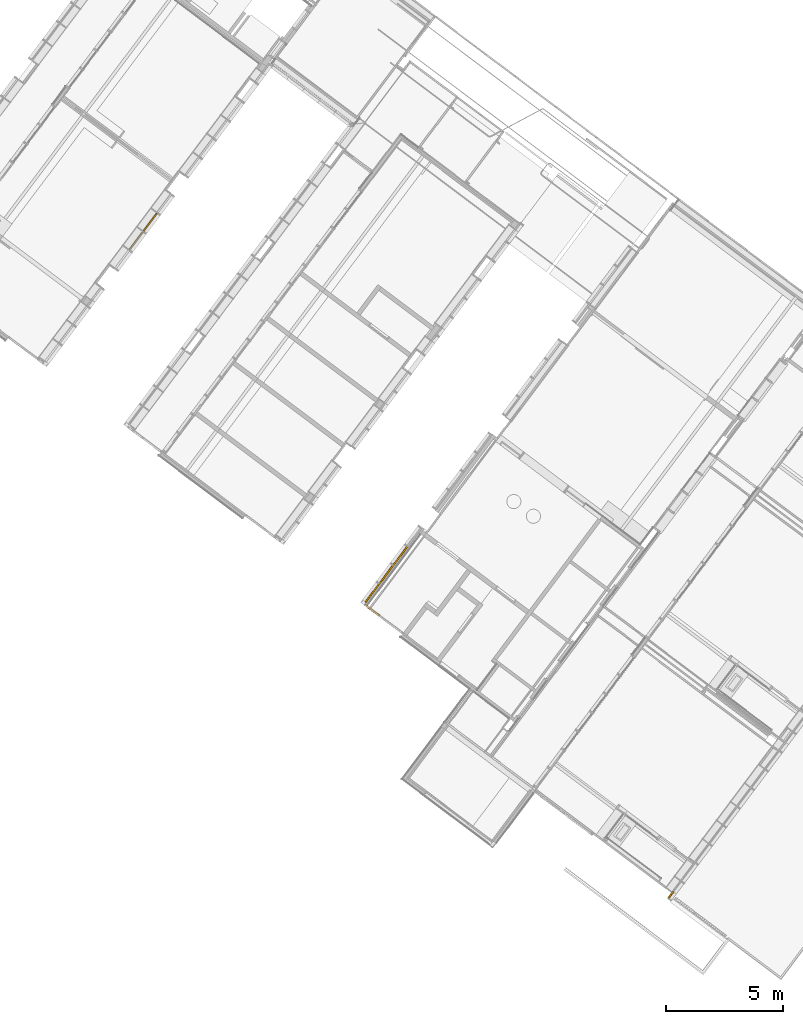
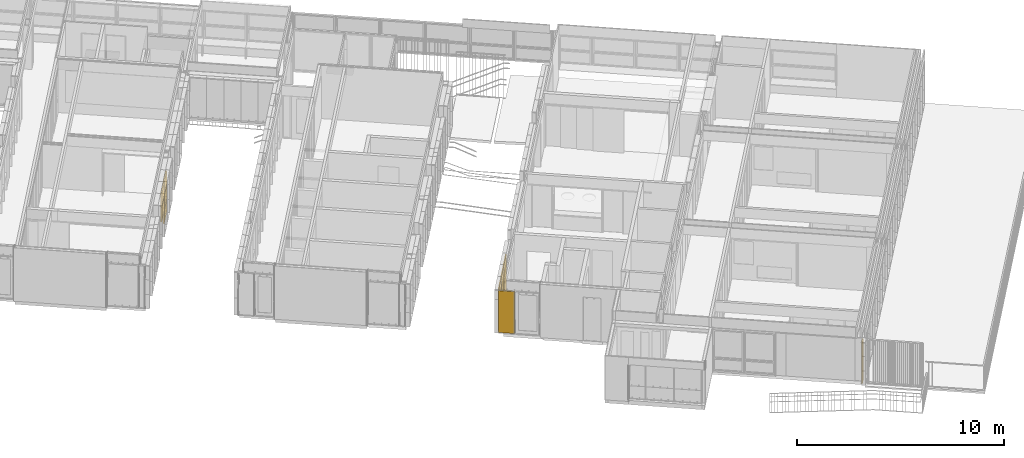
# One storey, part 147 of 243: 5 doors, 5 windows, 4 elements without a shape of their own.
"""IFC2X3 building model written with IfcOpenShell, lengths in metres."""

from ifc_helpers import new_model, entity, si_unit, converted_unit, derived_unit, direction, frame, origin, origin_2d_with_axis, place, context, subcontext, project, spatial, rectangle, extrude, faceted_brep, source, transform, mapped, material, material_list, type_object, type_shapes, element, aggregate, save


model = new_model("IFC2X3")

# Units and contexts
model_context = context("Model", 3, precision=1e-05, world=origin(), true_north=direction((6.123031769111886e-17, 1.0)))
body_context = subcontext(model_context, "Body", "Model", "MODEL_VIEW")
ifc_project = project(units=[si_unit("LENGTHUNIT", "METRE"), si_unit("AREAUNIT", "SQUARE_METRE"), si_unit("VOLUMEUNIT", "CUBIC_METRE"), converted_unit("PLANEANGLEUNIT", "DEGREE", entity("IfcRatioMeasure", 0.017453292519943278), si_unit("PLANEANGLEUNIT", "RADIAN"), dimensions=[0, 0, 0, 0, 0, 0, 0]), si_unit("MASSUNIT", "GRAM", prefix="KILO"), derived_unit("MASSDENSITYUNIT", [(si_unit("MASSUNIT", "GRAM", prefix="KILO"), 1), (si_unit("LENGTHUNIT", "METRE"), -3)]), derived_unit("IONCONCENTRATIONUNIT", [(si_unit("MASSUNIT", "GRAM", prefix="KILO"), 1), (si_unit("LENGTHUNIT", "METRE"), -3)]), derived_unit("MOMENTOFINERTIAUNIT", [(si_unit("LENGTHUNIT", "METRE"), 4)]), si_unit("TIMEUNIT", "SECOND"), si_unit("FREQUENCYUNIT", "HERTZ"), si_unit("THERMODYNAMICTEMPERATUREUNIT", "DEGREE_CELSIUS"), derived_unit("THERMALTRANSMITTANCEUNIT", [(si_unit("MASSUNIT", "GRAM", prefix="KILO"), 1), (si_unit("THERMODYNAMICTEMPERATUREUNIT", "KELVIN"), -1), (si_unit("TIMEUNIT", "SECOND"), -3)]), derived_unit("THERMALCONDUCTANCEUNIT", [(si_unit("MASSUNIT", "GRAM", prefix="KILO"), 1), (si_unit("THERMODYNAMICTEMPERATUREUNIT", "KELVIN"), -1), (si_unit("TIMEUNIT", "SECOND"), -3), (si_unit("LENGTHUNIT", "METRE"), 1)]), derived_unit("VOLUMETRICFLOWRATEUNIT", [(si_unit("LENGTHUNIT", "METRE"), 3), (si_unit("TIMEUNIT", "SECOND"), -1)]), derived_unit("MASSFLOWRATEUNIT", [(si_unit("MASSUNIT", "GRAM", prefix="KILO"), 1), (si_unit("TIMEUNIT", "SECOND"), -1)]), derived_unit("ROTATIONALFREQUENCYUNIT", [(si_unit("TIMEUNIT", "SECOND"), -1)]), si_unit("ELECTRICCURRENTUNIT", "AMPERE"), si_unit("ELECTRICVOLTAGEUNIT", "VOLT"), si_unit("POWERUNIT", "WATT"), si_unit("FORCEUNIT", "NEWTON", prefix="KILO"), si_unit("ILLUMINANCEUNIT", "LUX"), si_unit("LUMINOUSFLUXUNIT", "LUMEN"), si_unit("LUMINOUSINTENSITYUNIT", "CANDELA"), derived_unit("USERDEFINED", [(si_unit("MASSUNIT", "GRAM", prefix="KILO"), -1), (si_unit("LENGTHUNIT", "METRE"), -2), (si_unit("TIMEUNIT", "SECOND"), 3), (si_unit("LUMINOUSFLUXUNIT", "LUMEN"), 1)]), derived_unit("USERDEFINED", [(si_unit("MASSUNIT", "GRAM", prefix="KILO"), 1), (si_unit("TIMEUNIT", "SECOND"), -3), (si_unit("LENGTHUNIT", "METRE"), 3), (si_unit("ELECTRICCURRENTUNIT", "AMPERE"), -2)]), derived_unit("SOUNDPOWERUNIT", [(si_unit("MASSUNIT", "GRAM", prefix="KILO"), 1), (si_unit("TIMEUNIT", "SECOND"), -3), (si_unit("LENGTHUNIT", "METRE"), 2)]), derived_unit("SOUNDPRESSUREUNIT", [(si_unit("MASSUNIT", "GRAM", prefix="KILO"), 1), (si_unit("LENGTHUNIT", "METRE"), -1), (si_unit("TIMEUNIT", "SECOND"), -2)]), derived_unit("LINEARVELOCITYUNIT", [(si_unit("LENGTHUNIT", "METRE"), 1), (si_unit("TIMEUNIT", "SECOND"), -1)]), si_unit("PRESSUREUNIT", "PASCAL"), derived_unit("USERDEFINED", [(si_unit("MASSUNIT", "GRAM", prefix="KILO"), 1), (si_unit("LENGTHUNIT", "METRE"), -2), (si_unit("TIMEUNIT", "SECOND"), -2)]), derived_unit("LINEARFORCEUNIT", [(si_unit("MASSUNIT", "GRAM", prefix="KILO"), 1), (si_unit("TIMEUNIT", "SECOND"), -2)]), derived_unit("PLANARFORCEUNIT", [(si_unit("MASSUNIT", "GRAM", prefix="KILO"), 1), (si_unit("LENGTHUNIT", "METRE"), -1), (si_unit("TIMEUNIT", "SECOND"), -2)]), derived_unit("SPECIFICHEATCAPACITYUNIT", [(si_unit("THERMODYNAMICTEMPERATUREUNIT", "KELVIN"), -1), (si_unit("LENGTHUNIT", "METRE"), 2), (si_unit("TIMEUNIT", "SECOND"), -2)]), derived_unit("HEATINGVALUEUNIT", [(si_unit("LENGTHUNIT", "METRE"), 2), (si_unit("TIMEUNIT", "SECOND"), -2)]), derived_unit("VAPORPERMEABILITYUNIT", [(si_unit("LENGTHUNIT", "METRE"), -1), (si_unit("TIMEUNIT", "SECOND"), 1)]), derived_unit("DYNAMICVISCOSITYUNIT", [(si_unit("MASSUNIT", "GRAM", prefix="KILO"), 1), (si_unit("TIMEUNIT", "SECOND"), -1), (si_unit("LENGTHUNIT", "METRE"), -1)]), derived_unit("THERMALEXPANSIONCOEFFICIENTUNIT", [(si_unit("THERMODYNAMICTEMPERATUREUNIT", "KELVIN"), -1)]), derived_unit("MODULUSOFELASTICITYUNIT", [(si_unit("MASSUNIT", "GRAM", prefix="KILO"), 1), (si_unit("LENGTHUNIT", "METRE"), -1), (si_unit("TIMEUNIT", "SECOND"), -2)]), derived_unit("ISOTHERMALMOISTURECAPACITYUNIT", [(si_unit("LENGTHUNIT", "METRE"), 3), (si_unit("MASSUNIT", "GRAM", prefix="KILO"), -1)]), derived_unit("MOISTUREDIFFUSIVITYUNIT", [(si_unit("TIMEUNIT", "SECOND"), -1), (si_unit("LENGTHUNIT", "METRE"), 2)])], contexts=[model_context])

# Site, building, storey
site_placement = place(None, frame((0.0, 0.0, 235.0), z_axis=(0.0, 0.0, 1.0), x_axis=(-0.7996477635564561, 0.6004693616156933, 0.0)))
site = spatial("IfcSite", under=ifc_project, at=site_placement, Name="Default", CompositionType="ELEMENT")
building_placement = place(site_placement, origin())
building = spatial("IfcBuilding", under=site, at=building_placement, CompositionType="ELEMENT")
storey_placement = place(building_placement, origin())
storey = spatial("IfcBuildingStorey", under=building, at=storey_placement, Name="P0- Escola", CompositionType="ELEMENT", Elevation=0.0)

# Curtain wall, door
curtain_wall_type_1 = type_object("IfcCurtainWallType", Name="Muro cortina:MC- EXT- MC2", PredefinedType="NOTDEFINED")
curtain_wall_1_placement = place(storey_placement, origin())
curtain_wall_1 = element("IfcCurtainWall", 1, at=curtain_wall_1_placement, inside=storey, type_object=curtain_wall_type_1, Name="Muro cortina:MC- EXT- MC2", ObjectType="Muro cortina:MC- EXT- MC2")
ifc_material_1 = material(Name="_Alumini- T1- Perfil")
ifc_material_2 = material(Name="_Aillament")
ifc_material_list_1 = material_list([ifc_material_1, ifc_material_2])
door_style_1 = type_object("IfcDoorStyle", Name="MC- Alu- panell especific xapa:MC- Alu- panell especific xapa", ConstructionType="NOTDEFINED", OperationType="NOTDEFINED", ParameterTakesPrecedence=False, Sizeable=False, material=ifc_material_list_1)
shared_shape_1 = source(origin(), body_context, "Body", "SweptSolid", [
    extrude(rectangle(XDim=0.005999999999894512, YDim=0.3454172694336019, at=origin_2d_with_axis()), frame((0.0, -0.057000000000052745, 0.0), z_axis=(0.0, 0.0, 1.0), x_axis=(0.0, -1.0, 0.0)), (0.0, 0.0, 1.0), 2.4514499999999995),
    extrude(rectangle(XDim=0.3454172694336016, YDim=0.048000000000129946, at=origin_2d_with_axis()), frame((0.0, -0.030000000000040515, 0.0)), (0.0, 0.0, 1.0), 2.4514499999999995),
    extrude(rectangle(XDim=0.005999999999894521, YDim=0.3454172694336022, at=origin_2d_with_axis()), frame((0.0, -0.003000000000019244, 0.0), z_axis=(0.0, 0.0, 1.0), x_axis=(0.0, -1.0, 0.0)), (0.0, 0.0, 1.0), 2.4514499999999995),
])
type_shapes(door_style_1, [shared_shape_1])
door_1_placement = place(curtain_wall_1_placement, frame((5.885147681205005, -18.254148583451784, 0.03230000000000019), z_axis=(0.0, 0.0, 1.0), x_axis=(0.0, 1.0, 0.0)))
door_1 = element("IfcDoor", 2, at=door_1_placement, type_object=door_style_1, material=ifc_material_list_1, Name="MC- Alu- panell especific xapa:MC- Alu- panell especific xapa", ObjectType="MC- Alu- panell especific xapa:MC- Alu- panell especific xapa", OverallHeight=2.4514499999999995, OverallWidth=0.34541726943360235, context=body_context, shape_type="MappedRepresentation", body=[
    mapped(shared_shape_1, transform((0.0, 0.0, 0.0), scale=1.0)),
])
aggregate(curtain_wall_1, [door_1])

# Curtain wall, windows
curtain_wall_2_placement = place(storey_placement, origin())
curtain_wall_2 = element("IfcCurtainWall", 3, at=curtain_wall_2_placement, inside=storey, type_object=curtain_wall_type_1, Name="Muro cortina:MC- EXT- MC2", ObjectType="Muro cortina:MC- EXT- MC2")
ifc_material_3 = material(Name="_Vidre")
ifc_material_list_2 = material_list([ifc_material_3, ifc_material_1])
window_style_1 = type_object("IfcWindowStyle", Name="MC- Alu- Conjunt vidre fix- 62x60 cm:MC- Alu- Conjunt vidre fix- 62x60 cm", ConstructionType="NOTDEFINED", OperationType="NOTDEFINED", ParameterTakesPrecedence=False, Sizeable=False, material=ifc_material_list_2)
shared_shape_2 = source(origin(), body_context, "Body", "Brep", [
    faceted_brep([(0.4361932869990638, -0.007600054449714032, 0.048806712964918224), (0.4361932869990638, -0.03160022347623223, 0.048806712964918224), (-0.4361932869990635, -0.03160022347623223, 0.048806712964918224), (-0.4361932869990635, -0.007600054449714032, 0.048806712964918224), (0.4361932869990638, -0.007600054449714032, 0.7387000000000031), (-0.4361932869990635, -0.007600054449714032, 0.7387000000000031), (-0.4361932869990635, -0.03160022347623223, 0.7387000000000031), (0.4361932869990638, -0.03160022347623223, 0.7387000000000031)], [[[0, 1, 2, 3]], [[4, 0, 3, 5]], [[5, 3, 2, 6]], [[6, 2, 1, 7]], [[7, 1, 0, 4]], [[4, 5, 6, 7]]]),
    faceted_brep([(0.48499999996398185, -0.05999999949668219, 0.7877000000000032), (0.48499999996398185, -0.05999999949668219, 0.0), (0.48499999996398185, 0.0, 0.0), (0.48499999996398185, 0.0, 0.787700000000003), (-0.48499999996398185, 0.0, 0.7877000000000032), (-0.48499999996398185, 0.0, 0.0), (0.4221931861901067, 0.0, 0.7248931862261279), (-0.42219318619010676, 0.0, 0.724893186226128), (-0.4221931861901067, 0.0, 0.0628068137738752), (0.4221931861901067, 0.0, 0.06280681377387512), (-0.48499999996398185, -0.05999999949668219, 0.0), (-0.48499999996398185, -0.05999999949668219, 0.7877000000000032), (-0.42219603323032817, -0.05999999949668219, 0.7248960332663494), (0.42219603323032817, -0.05999999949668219, 0.7248960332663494), (0.42219603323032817, -0.05999999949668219, 0.0628039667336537), (-0.42219603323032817, -0.05999999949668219, 0.0628039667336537), (0.4221960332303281, -0.03160022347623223, 0.7248960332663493), (0.42219603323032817, -0.03160022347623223, 0.0628039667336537), (-0.42219603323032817, -0.03160022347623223, 0.06280396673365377), (-0.42219603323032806, -0.03160022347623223, 0.7248960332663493), (-0.43619328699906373, -0.03160022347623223, 0.738893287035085), (0.43619328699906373, -0.03160022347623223, 0.738893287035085), (0.43619328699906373, -0.03160022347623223, 0.048806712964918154), (-0.43619328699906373, -0.03160022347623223, 0.04880671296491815), (0.43619328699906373, -0.007600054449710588, 0.738893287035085), (0.43619328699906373, -0.007600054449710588, 0.04880671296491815), (-0.43619328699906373, -0.007600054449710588, 0.048806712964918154), (-0.43619328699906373, -0.007600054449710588, 0.738893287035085), (-0.42219318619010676, -0.007600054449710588, 0.724893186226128), (0.42219318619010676, -0.007600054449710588, 0.724893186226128), (0.42219318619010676, -0.007600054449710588, 0.06280681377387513), (-0.42219318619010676, -0.007600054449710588, 0.06280681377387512)], [[[0, 1, 2, 3]], [[4, 3, 2, 5], [6, 7, 8, 9]], [[1, 10, 5, 2]], [[0, 11, 10, 1], [12, 13, 14, 15]], [[16, 17, 14, 13]], [[17, 18, 15, 14]], [[16, 19, 18, 17], [20, 21, 22, 23]], [[24, 25, 22, 21]], [[25, 26, 23, 22]], [[24, 27, 26, 25], [28, 29, 30, 31]], [[6, 9, 30, 29]], [[9, 8, 31, 30]], [[10, 11, 4, 5]], [[18, 19, 12, 15]], [[26, 27, 20, 23]], [[8, 7, 28, 31]], [[11, 0, 3, 4]], [[19, 16, 13, 12]], [[27, 24, 21, 20]], [[7, 6, 29, 28]]], outer=[[True], [True, False], [True], [True, False], [True], [True], [False, True], [True], [True], [True, False], [True], [True], [True], [True], [True], [True], [True], [True], [True], [True]]),
])
type_shapes(window_style_1, [shared_shape_2])
window_1_placement = place(curtain_wall_2_placement, frame((41.045147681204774, -27.91519175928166, 0.03229999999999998), z_axis=(0.0, 0.0, 1.0), x_axis=(0.0, 1.0, 0.0)))
window_1 = element("IfcWindow", 4, at=window_1_placement, type_object=window_style_1, material=ifc_material_list_2, Name="MC- Alu- Conjunt vidre fix- 62x60 cm:MC- Alu- Conjunt vidre fix- 62x60 cm", ObjectType="MC- Alu- Conjunt vidre fix- 62x60 cm:MC- Alu- Conjunt vidre fix- 62x60 cm", OverallHeight=0.7877000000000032, OverallWidth=0.9699999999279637, context=body_context, shape_type="MappedRepresentation", body=[
    mapped(shared_shape_2, transform((0.0, 0.0, 0.0), scale=1.0)),
])
window_style_2 = type_object("IfcWindowStyle", Name="MC- Alu- Conjunt finestra basculant- 68x68 cm:MC- Alu- Conjunt finestra basculant- 68x68 cm", ConstructionType="NOTDEFINED", OperationType="NOTDEFINED", ParameterTakesPrecedence=False, Sizeable=False, material=ifc_material_list_2)
shared_shape_3 = source(origin(), body_context, "Body", "Brep", [
    faceted_brep([(0.43291170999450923, -0.03559830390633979, 0.051999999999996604), (-0.43291170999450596, -0.03559830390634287, 0.051999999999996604), (-0.43291170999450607, -0.011598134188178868, 0.051999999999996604), (0.43291170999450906, -0.011598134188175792, 0.051999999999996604), (0.43291170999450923, -0.035598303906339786, 0.8228027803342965), (0.43291170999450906, -0.011598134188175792, 0.8228027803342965), (-0.43291170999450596, -0.011598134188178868, 0.8228027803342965), (-0.43291170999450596, -0.03559830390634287, 0.8228027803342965)], [[[0, 1, 2, 3]], [[4, 0, 3, 5]], [[5, 3, 2, 6]], [[6, 2, 1, 7]], [[7, 1, 0, 4]], [[4, 5, 6, 7]]]),
    faceted_brep([(-0.4172108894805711, -0.009998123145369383, 0.8071019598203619), (-0.4172108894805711, -0.00999812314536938, 0.06789804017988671), (-0.4172108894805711, -0.007998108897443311, 0.06789804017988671), (-0.4172108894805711, -0.007998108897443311, 0.8071019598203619), (-0.44610892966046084, -0.007998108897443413, 0.8360000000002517), (0.44610892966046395, -0.007998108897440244, 0.8360000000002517), (0.44610892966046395, -0.007998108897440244, 0.03899999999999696), (-0.44610892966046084, -0.007998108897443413, 0.03899999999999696), (0.4172108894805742, -0.007998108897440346, 0.8071019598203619), (0.4172108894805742, -0.007998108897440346, 0.06789804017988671), (0.4172108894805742, -0.009998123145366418, 0.06789804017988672), (0.4172108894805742, -0.009998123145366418, 0.8071019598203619), (0.4329117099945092, -0.00999812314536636, 0.8228027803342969), (-0.43291170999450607, -0.009998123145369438, 0.8228027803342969), (-0.43291170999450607, -0.009998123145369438, 0.05219721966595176), (0.4329117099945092, -0.00999812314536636, 0.052197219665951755), (-0.4329117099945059, -0.04079986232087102, 0.8228027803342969), (-0.4329117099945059, -0.04079986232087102, 0.052197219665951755), (0.4329117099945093, -0.04079986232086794, 0.05219721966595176), (0.4329117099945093, -0.04079986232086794, 0.8228027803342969), (0.41721088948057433, -0.040799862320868, 0.8071019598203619), (-0.41721088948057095, -0.04079986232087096, 0.8071019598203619), (-0.41721088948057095, -0.04079986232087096, 0.06789804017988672), (0.41721088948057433, -0.040799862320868, 0.06789804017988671), (-0.4172108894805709, -0.06800005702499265, 0.8071019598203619), (-0.4172108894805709, -0.06800005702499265, 0.06789804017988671), (0.4172108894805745, -0.0680000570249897, 0.06789804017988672), (0.4172108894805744, -0.0680000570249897, 0.8071019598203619), (0.4636128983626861, -0.06800005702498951, 0.8535039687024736), (-0.4636128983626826, -0.06800005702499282, 0.8535039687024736), (-0.4636128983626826, -0.06800005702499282, 0.021496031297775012), (0.4636128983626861, -0.06800005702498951, 0.021496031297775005), (-0.4636128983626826, -0.0645000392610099, 0.8535039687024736), (-0.4636128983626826, -0.06450003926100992, 0.021496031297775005), (0.4636128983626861, -0.06450003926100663, 0.021496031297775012), (0.4636128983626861, -0.06450003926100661, 0.8535039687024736), (0.44610892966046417, -0.06450003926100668, 0.8360000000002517), (-0.4461089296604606, -0.06450003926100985, 0.8360000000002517), (-0.4461089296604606, -0.06450003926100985, 0.03899999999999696), (0.44610892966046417, -0.06450003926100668, 0.038999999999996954)], [[[0, 1, 2, 3]], [[4, 5, 6, 7], [8, 3, 2, 9]], [[1, 10, 9, 2]], [[0, 11, 10, 1], [12, 13, 14, 15]], [[16, 17, 14, 13]], [[17, 18, 15, 14]], [[16, 19, 18, 17], [20, 21, 22, 23]], [[24, 25, 22, 21]], [[25, 26, 23, 22]], [[24, 27, 26, 25], [28, 29, 30, 31]], [[32, 33, 30, 29]], [[33, 34, 31, 30]], [[32, 35, 34, 33], [36, 37, 38, 39]], [[4, 7, 38, 37]], [[7, 6, 39, 38]], [[10, 11, 8, 9]], [[18, 19, 12, 15]], [[26, 27, 20, 23]], [[34, 35, 28, 31]], [[6, 5, 36, 39]], [[11, 0, 3, 8]], [[19, 16, 13, 12]], [[27, 24, 21, 20]], [[35, 32, 29, 28]], [[5, 4, 37, 36]]], outer=[[True], [True, False], [True], [False, True], [True], [True], [True, False], [True], [True], [False, True], [True], [True], [True, False], [True], [True], [True], [True], [True], [True], [True], [True], [True], [True], [True], [True]]),
    faceted_brep([(0.42219318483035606, 0.0, 0.8121931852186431), (0.42219318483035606, 0.0, 0.06280681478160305), (0.42219318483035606, -0.0040000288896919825, 0.06280681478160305), (0.42219318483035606, -0.0040000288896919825, 0.8121931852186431), (-0.42219318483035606, -0.0040000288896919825, 0.8121931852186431), (-0.42219318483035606, -0.0040000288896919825, 0.06280681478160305), (0.4575998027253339, -0.0040000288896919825, 0.8475998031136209), (-0.4575998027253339, -0.0040000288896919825, 0.8475998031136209), (-0.4575998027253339, -0.0040000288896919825, 0.027400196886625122), (0.4575998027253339, -0.0040000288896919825, 0.02740019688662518), (-0.42219318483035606, 0.0, 0.06280681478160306), (-0.42219318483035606, 0.0, 0.8121931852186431), (-0.48499999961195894, 0.0, 0.875000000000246), (0.48499999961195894, 0.0, 0.875000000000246), (0.48499999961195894, 0.0, 0.0), (-0.48499999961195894, 0.0, 0.0), (0.48499999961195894, -0.05999999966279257, 0.875000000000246), (0.48499999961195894, -0.05999999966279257, 0.0), (-0.48499999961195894, -0.05999999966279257, 0.0), (-0.48499999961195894, -0.05999999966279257, 0.875000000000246), (-0.4575998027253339, -0.05999999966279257, 0.8475998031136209), (0.4575998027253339, -0.05999999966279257, 0.8475998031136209), (0.4575998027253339, -0.05999999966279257, 0.027400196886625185), (-0.4575998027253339, -0.05999999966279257, 0.02740019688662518)], [[[0, 1, 2, 3]], [[4, 3, 2, 5], [6, 7, 8, 9]], [[1, 10, 5, 2]], [[0, 11, 10, 1], [12, 13, 14, 15]], [[16, 17, 14, 13]], [[17, 18, 15, 14]], [[16, 19, 18, 17], [20, 21, 22, 23]], [[6, 9, 22, 21]], [[9, 8, 23, 22]], [[10, 11, 4, 5]], [[18, 19, 12, 15]], [[8, 7, 20, 23]], [[11, 0, 3, 4]], [[19, 16, 13, 12]], [[7, 6, 21, 20]]], outer=[[True], [False, True], [True], [False, True], [True], [True], [True, False], [True], [True], [True], [True], [True], [True], [True], [True]]),
])
type_shapes(window_style_2, [shared_shape_3])
window_2_placement = place(curtain_wall_2_placement, frame((41.045147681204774, -26.91519175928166, 0.8200000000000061), z_axis=(0.0, 0.0, 1.0), x_axis=(0.0, 1.0, 0.0)))
window_2 = element("IfcWindow", 5, at=window_2_placement, type_object=window_style_2, material=ifc_material_list_2, Name="MC- Alu- Conjunt finestra basculant- 68x68 cm:MC- Alu- Conjunt finestra basculant- 68x68 cm", ObjectType="MC- Alu- Conjunt finestra basculant- 68x68 cm:MC- Alu- Conjunt finestra basculant- 68x68 cm", OverallHeight=0.8750000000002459, OverallWidth=0.9699999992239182, context=body_context, shape_type="MappedRepresentation", body=[
    mapped(shared_shape_3, transform((0.0, 0.0, 0.0), scale=1.0)),
])
window_3_placement = place(curtain_wall_2_placement, frame((41.045147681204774, -27.91519175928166, 0.8200000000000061), z_axis=(0.0, 0.0, 1.0), x_axis=(0.0, 1.0, 0.0)))
window_3 = element("IfcWindow", 6, at=window_3_placement, type_object=window_style_2, material=ifc_material_list_2, Name="MC- Alu- Conjunt finestra basculant- 68x68 cm:MC- Alu- Conjunt finestra basculant- 68x68 cm", ObjectType="MC- Alu- Conjunt finestra basculant- 68x68 cm:MC- Alu- Conjunt finestra basculant- 68x68 cm", OverallHeight=0.8750000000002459, OverallWidth=0.9699999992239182, context=body_context, shape_type="MappedRepresentation", body=[
    mapped(shared_shape_3, transform((0.0, 0.0, 0.0), scale=1.0)),
])
window_style_3 = type_object("IfcWindowStyle", Name="MC- Alu- Conjunt finestra basculant- 68x68 cm:MC- Alu- Conjunt finestra basculant- 68x68 cm", ConstructionType="NOTDEFINED", OperationType="NOTDEFINED", ParameterTakesPrecedence=False, Sizeable=False, material=ifc_material_list_2)
shared_shape_4 = source(origin(), body_context, "Body", "Brep", [
    faceted_brep([(0.432911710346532, -0.03559830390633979, 0.051999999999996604), (-0.43291171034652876, -0.03559830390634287, 0.051999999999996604), (-0.4329117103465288, -0.011598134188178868, 0.051999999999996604), (0.43291171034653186, -0.011598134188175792, 0.051999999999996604), (0.432911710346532, -0.035598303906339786, 0.7565527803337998), (0.43291171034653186, -0.011598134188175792, 0.7565527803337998), (-0.43291171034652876, -0.011598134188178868, 0.7565527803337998), (-0.43291171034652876, -0.03559830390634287, 0.7565527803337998)], [[[0, 1, 2, 3]], [[4, 0, 3, 5]], [[5, 3, 2, 6]], [[6, 2, 1, 7]], [[7, 1, 0, 4]], [[4, 5, 6, 7]]]),
    faceted_brep([(-0.41721088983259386, -0.009998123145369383, 0.7408519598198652), (-0.41721088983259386, -0.00999812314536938, 0.06789804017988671), (-0.41721088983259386, -0.007998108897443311, 0.06789804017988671), (-0.41721088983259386, -0.007998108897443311, 0.7408519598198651), (-0.4461089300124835, -0.007998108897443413, 0.7697499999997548), (0.44610893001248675, -0.007998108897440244, 0.7697499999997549), (0.4461089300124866, -0.007998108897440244, 0.03899999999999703), (-0.44610893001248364, -0.007998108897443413, 0.03899999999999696), (0.41721088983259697, -0.007998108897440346, 0.7408519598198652), (0.41721088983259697, -0.007998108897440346, 0.06789804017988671), (0.41721088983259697, -0.009998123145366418, 0.06789804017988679), (0.41721088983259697, -0.009998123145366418, 0.7408519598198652), (0.4329117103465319, -0.00999812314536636, 0.7565527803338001), (-0.4329117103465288, -0.009998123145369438, 0.7565527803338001), (-0.4329117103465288, -0.009998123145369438, 0.05219721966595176), (0.4329117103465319, -0.00999812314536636, 0.052197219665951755), (-0.4329117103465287, -0.04079986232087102, 0.7565527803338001), (-0.4329117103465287, -0.04079986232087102, 0.052197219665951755), (0.4329117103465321, -0.04079986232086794, 0.05219721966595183), (0.4329117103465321, -0.04079986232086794, 0.7565527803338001), (0.41721088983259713, -0.040799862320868, 0.7408519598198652), (-0.41721088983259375, -0.04079986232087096, 0.7408519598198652), (-0.41721088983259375, -0.04079986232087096, 0.06789804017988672), (0.41721088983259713, -0.040799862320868, 0.06789804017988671), (-0.4172108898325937, -0.06800005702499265, 0.7408519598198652), (-0.4172108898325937, -0.06800005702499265, 0.06789804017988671), (0.41721088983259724, -0.0680000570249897, 0.06789804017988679), (0.4172108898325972, -0.0680000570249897, 0.7408519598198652), (0.4636128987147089, -0.06800005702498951, 0.7872539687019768), (-0.46361289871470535, -0.06800005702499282, 0.7872539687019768), (-0.46361289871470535, -0.06800005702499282, 0.021496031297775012), (0.4636128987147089, -0.06800005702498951, 0.021496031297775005), (-0.46361289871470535, -0.0645000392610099, 0.7872539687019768), (-0.46361289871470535, -0.06450003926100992, 0.021496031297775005), (0.4636128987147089, -0.06450003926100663, 0.02149603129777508), (0.4636128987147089, -0.06450003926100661, 0.7872539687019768), (0.4461089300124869, -0.06450003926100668, 0.7697499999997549), (-0.4461089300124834, -0.06450003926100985, 0.7697499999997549), (-0.4461089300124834, -0.06450003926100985, 0.03899999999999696), (0.4461089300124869, -0.06450003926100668, 0.038999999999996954)], [[[0, 1, 2, 3]], [[4, 5, 6, 7], [8, 3, 2, 9]], [[1, 10, 9, 2]], [[0, 11, 10, 1], [12, 13, 14, 15]], [[16, 17, 14, 13]], [[17, 18, 15, 14]], [[16, 19, 18, 17], [20, 21, 22, 23]], [[24, 25, 22, 21]], [[25, 26, 23, 22]], [[24, 27, 26, 25], [28, 29, 30, 31]], [[32, 33, 30, 29]], [[33, 34, 31, 30]], [[32, 35, 34, 33], [36, 37, 38, 39]], [[4, 7, 38, 37]], [[7, 6, 39, 38]], [[10, 11, 8, 9]], [[18, 19, 12, 15]], [[26, 27, 20, 23]], [[34, 35, 28, 31]], [[6, 5, 36, 39]], [[11, 0, 3, 8]], [[19, 16, 13, 12]], [[27, 24, 21, 20]], [[35, 32, 29, 28]], [[5, 4, 37, 36]]], outer=[[True], [True, False], [True], [False, True], [True], [True], [True, False], [True], [True], [False, True], [True], [True], [True, False], [True], [True], [True], [True], [True], [True], [True], [True], [True], [True], [True], [True]]),
    faceted_brep([(0.4221931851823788, 0.0, 0.7459431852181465), (0.4221931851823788, 0.0, 0.06280681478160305), (0.4221931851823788, -0.0040000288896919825, 0.06280681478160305), (0.4221931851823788, -0.0040000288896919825, 0.7459431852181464), (-0.4221931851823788, -0.0040000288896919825, 0.7459431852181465), (-0.4221931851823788, -0.0040000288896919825, 0.06280681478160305), (0.4575998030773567, -0.0040000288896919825, 0.7813498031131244), (-0.4575998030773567, -0.0040000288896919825, 0.7813498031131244), (-0.4575998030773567, -0.0040000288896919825, 0.027400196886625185), (0.4575998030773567, -0.0040000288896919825, 0.02740019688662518), (-0.4221931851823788, 0.0, 0.06280681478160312), (-0.4221931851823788, 0.0, 0.7459431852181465), (-0.48499999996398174, 0.0, 0.8087499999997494), (0.48499999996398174, 0.0, 0.8087499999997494), (0.48499999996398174, 0.0, 0.0), (-0.48499999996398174, 0.0, 0.0), (0.48499999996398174, -0.05999999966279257, 0.8087499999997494), (0.48499999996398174, -0.05999999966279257, 0.0), (-0.48499999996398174, -0.05999999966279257, 0.0), (-0.48499999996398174, -0.05999999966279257, 0.8087499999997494), (-0.4575998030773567, -0.05999999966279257, 0.7813498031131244), (0.4575998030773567, -0.05999999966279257, 0.7813498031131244), (0.4575998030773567, -0.05999999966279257, 0.027400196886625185), (-0.4575998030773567, -0.05999999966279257, 0.02740019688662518)], [[[0, 1, 2, 3]], [[4, 3, 2, 5], [6, 7, 8, 9]], [[1, 10, 5, 2]], [[0, 11, 10, 1], [12, 13, 14, 15]], [[16, 17, 14, 13]], [[17, 18, 15, 14]], [[16, 19, 18, 17], [20, 21, 22, 23]], [[6, 9, 22, 21]], [[9, 8, 23, 22]], [[10, 11, 4, 5]], [[18, 19, 12, 15]], [[8, 7, 20, 23]], [[11, 0, 3, 4]], [[19, 16, 13, 12]], [[7, 6, 21, 20]]], outer=[[True], [False, True], [True], [False, True], [True], [True], [True, False], [True], [True], [True], [True], [True], [True], [True], [True]]),
])
type_shapes(window_style_3, [shared_shape_4])
window_4_placement = place(curtain_wall_2_placement, frame((41.045147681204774, -26.91519175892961, 1.6950000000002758), z_axis=(0.0, 0.0, 1.0), x_axis=(0.0, 1.0, 0.0)))
window_4 = element("IfcWindow", 7, at=window_4_placement, type_object=window_style_3, material=ifc_material_list_2, Name="MC- Alu- Conjunt finestra basculant- 68x68 cm:MC- Alu- Conjunt finestra basculant- 68x68 cm", ObjectType="MC- Alu- Conjunt finestra basculant- 68x68 cm:MC- Alu- Conjunt finestra basculant- 68x68 cm", OverallHeight=0.8087499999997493, OverallWidth=0.9699999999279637, context=body_context, shape_type="MappedRepresentation", body=[
    mapped(shared_shape_4, transform((0.0, 0.0, 0.0), scale=1.0)),
])
window_5_placement = place(curtain_wall_2_placement, frame((41.045147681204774, -27.91519175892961, 1.6950000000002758), z_axis=(0.0, 0.0, 1.0), x_axis=(0.0, 1.0, 0.0)))
window_5 = element("IfcWindow", 8, at=window_5_placement, type_object=window_style_3, material=ifc_material_list_2, Name="MC- Alu- Conjunt finestra basculant- 68x68 cm:MC- Alu- Conjunt finestra basculant- 68x68 cm", ObjectType="MC- Alu- Conjunt finestra basculant- 68x68 cm:MC- Alu- Conjunt finestra basculant- 68x68 cm", OverallHeight=0.8087499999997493, OverallWidth=0.9699999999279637, context=body_context, shape_type="MappedRepresentation", body=[
    mapped(shared_shape_4, transform((0.0, 0.0, 0.0), scale=1.0)),
])
aggregate(curtain_wall_2, [window_1, window_2, window_3, window_4, window_5])

# Curtain wall, doors
curtain_wall_3_placement = place(storey_placement, origin())
curtain_wall_3 = element("IfcCurtainWall", 9, at=curtain_wall_3_placement, inside=storey, type_object=curtain_wall_type_1, Name="Muro cortina:MC- EXT- MC2", ObjectType="Muro cortina:MC- EXT- MC2")
door_style_2 = type_object("IfcDoorStyle", Name="MC- Alu- panell especific xapa:MC- Alu- panell especific xapa", ConstructionType="NOTDEFINED", OperationType="NOTDEFINED", ParameterTakesPrecedence=False, Sizeable=False, material=ifc_material_list_1)
shared_shape_5 = source(origin(), body_context, "Body", "SweptSolid", [
    extrude(rectangle(XDim=0.9699999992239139, YDim=0.005999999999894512, at=origin_2d_with_axis()), frame((0.0, -0.057000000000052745, 0.0), z_axis=(0.0, 0.0, 1.0), x_axis=(-1.0, 0.0, 0.0)), (0.0, 0.0, 1.0), 2.471449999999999),
    extrude(rectangle(XDim=0.048000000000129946, YDim=0.9699999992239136, at=origin_2d_with_axis()), frame((0.0, -0.030000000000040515, 0.0), z_axis=(0.0, 0.0, 1.0), x_axis=(0.0, 1.0, 0.0)), (0.0, 0.0, 1.0), 2.471449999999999),
    extrude(rectangle(XDim=0.9699999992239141, YDim=0.005999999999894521, at=origin_2d_with_axis()), frame((0.0, -0.003000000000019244, 0.0), z_axis=(0.0, 0.0, 1.0), x_axis=(-1.0, 0.0, 0.0)), (0.0, 0.0, 1.0), 2.471449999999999),
])
type_shapes(door_style_2, [shared_shape_5])
door_2_placement = place(curtain_wall_3_placement, frame((23.945147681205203, -20.915191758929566, 0.03229999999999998), z_axis=(0.0, 0.0, 1.0), x_axis=(0.0, -1.0, 0.0)))
door_2 = element("IfcDoor", 10, at=door_2_placement, type_object=door_style_2, material=ifc_material_list_1, Name="MC- Alu- panell especific xapa:MC- Alu- panell especific xapa", ObjectType="MC- Alu- panell especific xapa:MC- Alu- panell especific xapa", OverallHeight=2.471449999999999, OverallWidth=0.9699999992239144, context=body_context, shape_type="MappedRepresentation", body=[
    mapped(shared_shape_5, transform((0.0, 0.0, 0.0), scale=1.0)),
])
door_3_placement = place(curtain_wall_3_placement, frame((23.945147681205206, -21.91519175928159, 0.03229999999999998), z_axis=(0.0, 0.0, 1.0), x_axis=(0.0, -1.0, 0.0)))
door_3 = element("IfcDoor", 11, at=door_3_placement, type_object=door_style_2, material=ifc_material_list_1, Name="MC- Alu- panell especific xapa:MC- Alu- panell especific xapa", ObjectType="MC- Alu- panell especific xapa:MC- Alu- panell especific xapa", OverallHeight=2.471449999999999, OverallWidth=0.9699999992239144, context=body_context, shape_type="MappedRepresentation", body=[
    mapped(shared_shape_5, transform((0.0, 0.0, 0.0), scale=1.0)),
])
door_4_placement = place(curtain_wall_3_placement, frame((23.945147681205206, -22.91519175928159, 0.03229999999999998), z_axis=(0.0, 0.0, 1.0), x_axis=(0.0, -1.0, 0.0)))
door_4 = element("IfcDoor", 12, at=door_4_placement, type_object=door_style_2, material=ifc_material_list_1, Name="MC- Alu- panell especific xapa:MC- Alu- panell especific xapa", ObjectType="MC- Alu- panell especific xapa:MC- Alu- panell especific xapa", OverallHeight=2.471449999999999, OverallWidth=0.9699999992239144, context=body_context, shape_type="MappedRepresentation", body=[
    mapped(shared_shape_5, transform((0.0, 0.0, 0.0), scale=1.0)),
])
aggregate(curtain_wall_3, [door_2, door_3, door_4])

# Curtain wall, door
curtain_wall_type_2 = type_object("IfcCurtainWallType", Name="Muro cortina:MC- EXT- AL1- Fa porxo", PredefinedType="NOTDEFINED")
curtain_wall_4_placement = place(storey_placement, origin())
curtain_wall_4 = element("IfcCurtainWall", 13, at=curtain_wall_4_placement, inside=storey, type_object=curtain_wall_type_2, Name="Muro cortina:MC- EXT- AL1- Fa porxo", ObjectType="Muro cortina:MC- EXT- AL1- Fa porxo")
ifc_material_4 = material(Name="_Fusta massisa- T1")
ifc_material_list_3 = material_list([ifc_material_4, ifc_material_2, ifc_material_1])
door_style_3 = type_object("IfcDoorStyle", Name="MC- Alu- panell especific cuina:MC- Alu- panell especific cuina", ConstructionType="NOTDEFINED", OperationType="NOTDEFINED", ParameterTakesPrecedence=False, Sizeable=False, material=ifc_material_list_3)
shared_shape_6 = source(origin(), body_context, "Body", "SweptSolid", [
    extrude(rectangle(XDim=0.7795000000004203, YDim=0.020000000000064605, at=origin_2d_with_axis()), frame((0.0, -0.06000000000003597, 0.0)), (0.0, 0.0, 1.0), 2.4712499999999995),
    extrude(rectangle(XDim=0.04400000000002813, YDim=0.779500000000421, at=origin_2d_with_axis()), frame((0.0, -0.027999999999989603, 0.0), z_axis=(0.0, 0.0, 1.0), x_axis=(0.0, 1.0, 0.0)), (0.0, 0.0, 1.0), 2.4712499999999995),
    extrude(rectangle(XDim=0.7795000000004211, YDim=0.005999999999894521, at=origin_2d_with_axis()), frame((0.0, -0.003000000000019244, 0.0), z_axis=(0.0, 0.0, 1.0), x_axis=(-1.0, 0.0, 0.0)), (0.0, 0.0, 1.0), 2.4712499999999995),
])
type_shapes(door_style_3, [shared_shape_6])
door_5_placement = place(curtain_wall_4_placement, frame((23.49539768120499, -20.288941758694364, 0.02099999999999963)))
door_5 = element("IfcDoor", 14, at=door_5_placement, type_object=door_style_3, material=ifc_material_list_3, Name="MC- Alu- panell especific cuina:MC- Alu- panell especific cuina", ObjectType="MC- Alu- panell especific cuina:MC- Alu- panell especific cuina", OverallHeight=2.4712499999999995, OverallWidth=0.7795000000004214, context=body_context, shape_type="MappedRepresentation", body=[
    mapped(shared_shape_6, transform((0.0, 0.0, 0.0), scale=1.0)),
])
aggregate(curtain_wall_4, [door_5])

save(model, "model.ifc")
